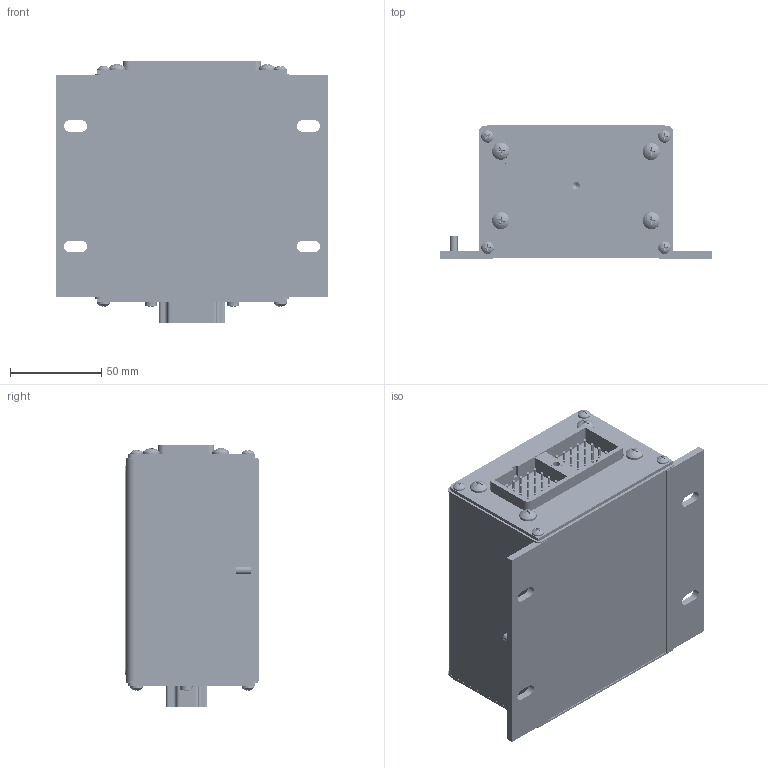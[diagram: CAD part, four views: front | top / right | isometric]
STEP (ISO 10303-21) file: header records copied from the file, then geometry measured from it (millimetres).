
FILE_DESCRIPTION(/* description */ (''),/* implementation_level */ '2;1');
FILE_NAME(/* name */ 'S:\Projects\TC20-ST, AX185000, Proj_16029\UNIT ASSEMBLY\RELEASED\P1\AX185000.stp',/* time_stamp */ '2019-07-22T14:21:11-04:00',/* author */ ('tfisher'),/* organization */ (''),/* preprocessor_version */ 'ST-DEVELOPER v15.2',/* originating_system */ 'Autodesk Inventor 2014',/* authorisation */ '');
FILE_SCHEMA (('AUTOMOTIVE_DESIGN { 1 0 10303 214 3 1 1 }'));
Products named in the file (1): FG-AX185000 for STEP_Shrinkwrap_1
Bounding box: 149 x 73.25 x 144.2 mm (x, y, z)
Volume: 306516.6 mm3; surface area: 197792.3 mm2
Topology: 1 solids, 29 shells, 7562 faces, 19869 edges, 13173 vertices
Faces by surface type: plane 4815, bspline 1744, cylinder 645, cone 203, torus 138, sphere 17
Full cylindrical faces by diameter (mm): 0.86 x2, 0.991 x2, 1 x16, 1.005 x20, 1.016 x6, 1.118 x8, 1.16 x20, 1.289 x1, 1.524 x10, 1.575 x196, 1.88 x8, 1.905 x5, 2.067 x1, 2.54 x2, 2.642 x8, 2.794 x7, 2.845 x2, 3.251 x4, 3.302 x5, 3.505 x10, 3.962 x17, 4 x3, 4.064 x8, 4.08 x1, 4.14 x2, 4.166 x2, 4.826 x7, 5.359 x4, 5.41 x2, 5.721 x1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
Entity records: 250608 total; most frequent: CARTESIAN_POINT 72594, ORIENTED_EDGE 38442, DIRECTION 28408, EDGE_CURVE 19213, LINE 13198, VECTOR 13198, VERTEX_POINT 13010, EDGE_LOOP 9055
